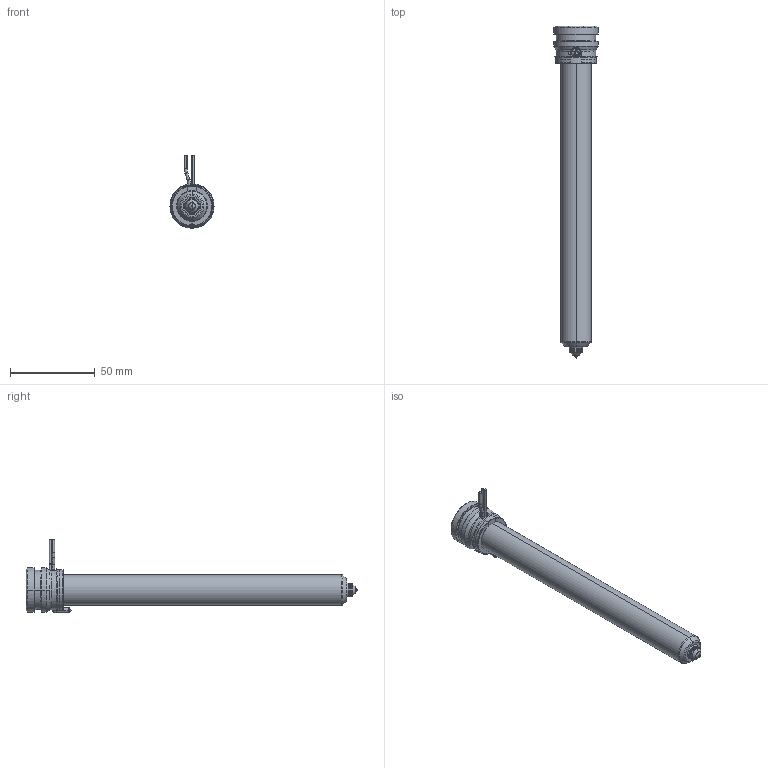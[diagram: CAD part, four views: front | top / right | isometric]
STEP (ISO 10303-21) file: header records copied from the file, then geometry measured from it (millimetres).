
FILE_DESCRIPTION((''),'2;1');
FILE_NAME('MPN-08-24-VX8-176-A','2026-02-05T12:00:41',('UPTIO'),('Thermoplay S.p.A.'),'CREO PARAMETRIC BY PTC INC, 2023494','CREO PARAMETRIC BY PTC INC, 2023494','');
FILE_SCHEMA(('CONFIG_CONTROL_DESIGN','SHAPE_APPEARANCE_LAYERS_GROUPS'));
Length unit declared in the file: millimetre
Products named in the file (1): MPN-08-24-VX8-176-A
Bounding box: 26 x 195.5 x 43.5 mm (x, y, z)
Volume: 36268.1 mm3; surface area: 47646.3 mm2
Topology: 2 solids, 3 shells, 545 faces, 1438 edges, 891 vertices
Faces by surface type: cylinder 180, plane 143, bspline 82, cone 62, torus 62, sphere 10, extrusion 6
Entity records: 29287 total; most frequent: CARTESIAN_POINT 13048, ORIENTED_EDGE 2860, DIRECTION 2578, EDGE_CURVE 1430, AXIS2_PLACEMENT_3D 1007, VERTEX_POINT 891, EDGE_LOOP 573, VECTOR 564
